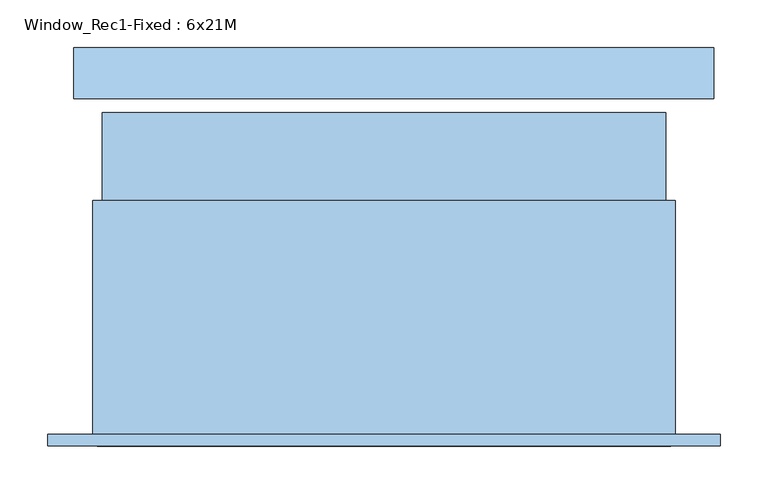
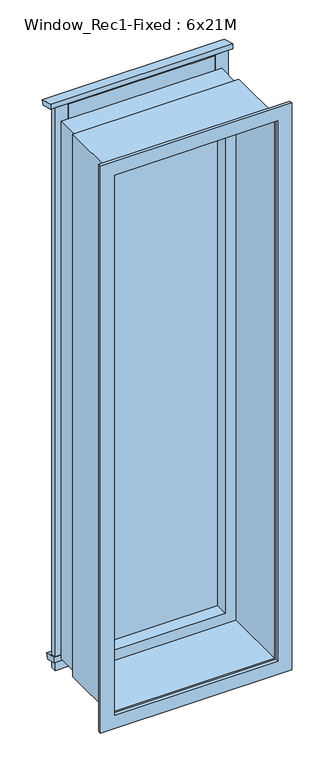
"""IFC4 building model written with IfcOpenShell, lengths in millimetres: window geometry, Window_Rec1-Fixed : 6x21M."""

from ifc_helpers import new_model, si_unit, frame, origin, place, context, project, spatial, polyline, outline, extrude, source, transform, mapped, element, save


def window_rec1_fixed_6x21m_13d0a51b(model_context):
    return source(origin(), model_context, "Body", "SweptSolid", [
        extrude(outline(polyline([(238.0508419, 2444.3065207), (233.1332801, 2425.95393), (184.8369888, 2438.8948822), (184.8369888, 2458.5651297), (238.0508419, 2444.3065207)])), frame((-530.0, 0.0, 0.0), z_axis=(1.0, 0.0, 0.0), x_axis=(0.0, 1.0, 0.0)), (0.0, 0.0, 1.0), 670.0),
        extrude(outline(polyline([(233.1332801, 290.6791642), (227.4392611, 269.4287961), (184.8369888, 280.8440405), (184.8369888, 303.6201165), (233.1332801, 290.6791642)])), frame((-516.0, 0.0, 0.0), z_axis=(1.0, 0.0, 0.0), x_axis=(0.0, 1.0, 0.0)), (0.0, 0.0, 1.0), 642.0),
        extrude(outline(polyline([(-465.0, 184.8369888), (-465.0, 206.8369888), (75.0, 206.8369888), (75.0, 184.8369888), (-465.0, 184.8369888)])), frame((0.0, 0.0, 255.0051732), z_axis=(0.0, 0.0, 1.0), x_axis=(1.0, 0.0, 0.0)), (0.0, 0.0, 1.0), 20.0),
        extrude(outline(polyline([(-465.0, 184.8369888), (-465.0, 206.8369888), (75.0, 206.8369888), (75.0, 184.8369888), (-465.0, 184.8369888)])), frame((0.0, 0.0, 2375.0), z_axis=(0.0, 0.0, 1.0), x_axis=(1.0, 0.0, 0.0)), (0.0, 0.0, 1.0), 60.0),
        extrude(outline(polyline([(123.0, 184.8369888), (75.0, 184.8369888), (75.0, 206.8369888), (123.0, 206.8369888), (123.0, 184.8369888)])), frame((0.0, 0.0, 250.0), z_axis=(0.0, 0.0, 1.0), x_axis=(1.0, 0.0, 0.0)), (0.0, 0.0, 1.0), 2189.0),
        extrude(outline(polyline([(-465.0, 184.8369888), (-513.0, 184.8369888), (-513.0, 206.8369888), (-465.0, 206.8369888), (-465.0, 184.8369888)])), frame((0.0, 0.0, 250.0), z_axis=(0.0, 0.0, 1.0), x_axis=(1.0, 0.0, 0.0)), (0.0, 0.0, 1.0), 2189.1537013),
        extrude(outline(polyline([(2390.0, 90.0), (2390.0, -500.0), (300.0, -500.0), (300.0, 90.0), (2390.0, 90.0)]), holes=[polyline([(340.0, 50.0), (340.0, -460.0), (2350.0, -460.0), (2350.0, 50.0), (340.0, 50.0)])]), frame((0.0, 77.8369888, 0.0), z_axis=(0.0, 1.0, 0.0), x_axis=(0.0, 0.0, 1.0)), (0.0, 0.0, 1.0), 92.0),
        extrude(outline(polyline([(50.0, 127.3369888), (-460.0, 127.3369888), (-460.0, 152.3369888), (50.0, 152.3369888), (50.0, 127.3369888)])), frame((0.0, 0.0, 340.0), z_axis=(0.0, 0.0, 1.0), x_axis=(1.0, 0.0, 0.0)), (0.0, 0.0, 1.0), 2010.0),
        extrude(outline(polyline([(2400.0, 100.0), (2400.0, -510.0), (290.0, -510.0), (290.0, 100.0), (2400.0, 100.0)]), holes=[polyline([(300.0, -500.0), (2390.0, -500.0), (2390.0, 90.0), (300.0, 90.0), (300.0, -500.0)])]), frame((0.0, -167.1630112, 0.0), z_axis=(0.0, 1.0, 0.0), x_axis=(0.0, 0.0, 1.0)), (0.0, 0.0, 1.0), 245.0),
        extrude(outline(polyline([(2447.0, 147.0), (2447.0, -557.0), (243.0, -557.0), (243.0, 147.0), (2447.0, 147.0)]), holes=[polyline([(295.0, 95.0), (295.0, -505.0), (2395.0, -505.0), (2395.0, 95.0), (295.0, 95.0)])]), frame((0.0, -179.1630112, 0.0), z_axis=(0.0, 1.0, 0.0), x_axis=(0.0, 0.0, 1.0)), (0.0, 0.0, 1.0), 12.0),
    ])


if __name__ == "__main__":
    model = new_model("IFC4")
    model_context = context("Model", 3, world=origin())
    ifc_project = project(units=[si_unit("LENGTHUNIT", "METRE", prefix="MILLI")], contexts=[model_context])
    site = spatial("IfcSite", under=ifc_project)
    building = spatial("IfcBuilding", under=site)
    placement = place(None, origin())
    window_rec1_fixed_6x21m_shape = window_rec1_fixed_6x21m_13d0a51b(model_context)
    element("IfcWindow", 1, ObjectType="Window_Rec1-Fixed : 6x21M", at=placement, inside=building, context=model_context, shape_type="MappedRepresentation", body=[
        mapped(window_rec1_fixed_6x21m_shape, transform((0.0, 0.0, 0.0), x_axis=(1.0, 0.0, 0.0), y_axis=(0.0, 1.0, 0.0), z_axis=(0.0, 0.0, 1.0))),
    ])
    save(model, "model.ifc")
